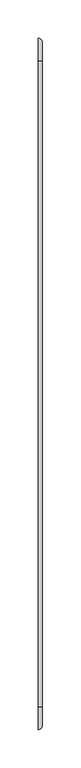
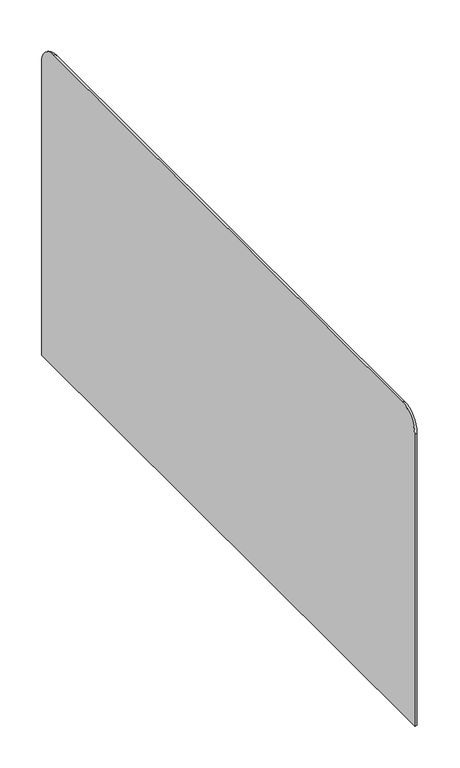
"""IFC4 building model written with IfcOpenShell, lengths in millimetres: furniture geometry, Armchair_Bensen_Neo_NEO100IT : Armchair_Bensen_Neo_NEO100IT."""

from ifc_helpers import new_model, si_unit, point, frame, origin, place, context, project, spatial, circle_curve, ellipse_curve, trimmed, source, transform, mapped, element, save
from ifc_brep_helpers import plane_surface, cylinder_surface, revolved_surface, advanced_brep


def furniture_14755b09(model_context):
    return source(origin(), model_context, "Body", "AdvancedBrep", [
        advanced_brep(
        [(480.0, -449.9987249, 170.0), (480.0, -449.9987249, 599.5427565), (480.0, -419.9987249, 629.5427565), (480.0, 419.998725, 629.5427565), (480.0, 449.998725, 599.5427565), (480.0, 449.998725, 170.0), (485.0, -444.9987249, 170.0), (485.0, 444.998725, 170.0), (485.0, 444.998725, 599.5427565), (485.0, 419.998725, 624.5427565), (485.0, -419.9987249, 624.5427565), (485.0, -444.9987249, 599.5427565)],
        [
            (0, 1),
            (1, 2, circle_curve(frame((480.0, -419.9987249, 599.5427565), z_axis=(-1.0, 0.0, 0.0), x_axis=(0.0, 0.0, 1.0)), 30.0)),
            (2, 3),
            (3, 4, circle_curve(frame((480.0, 419.998725, 599.5427565), z_axis=(-1.0, 0.0, 0.0), x_axis=(0.0, 1.0, 0.0)), 30.0)),
            (4, 5),
            (5, 0),
            (6, 7),
            (7, 8),
            (8, 9, circle_curve(frame((485.0, 419.998725, 599.5427565), z_axis=(1.0, 0.0, 0.0), x_axis=(0.0, 1.0, 0.0)), 25.0)),
            (9, 10),
            (10, 11, circle_curve(frame((485.0, -419.9987249, 599.5427565), z_axis=(1.0, 0.0, 0.0), x_axis=(0.0, 0.0, 1.0)), 25.0)),
            (11, 6),
            (5, 7, circle_curve(frame((480.0, 444.998725, 170.0), z_axis=(0.0, 0.0, -1.0), x_axis=(-1.0, 0.0, 0.0)), 5.0)),
            (6, 0, circle_curve(frame((480.0, -444.9987249, 170.0), z_axis=(0.0, 0.0, -1.0), x_axis=(-1.0, 0.0, 0.0)), 5.0)),
            (9, 3, circle_curve(frame((480.0, 419.998725, 624.5427565), z_axis=(0.0, -1.0, 0.0), x_axis=(-1.0, 0.0, 0.0)), 5.0)),
            (2, 10, circle_curve(frame((480.0, -419.9987249, 624.5427565), z_axis=(0.0, 1.0, 0.0), x_axis=(-1.0, 0.0, 0.0)), 5.0)),
            (1, 11, circle_curve(frame((480.0, -444.9987249, 599.5427565), z_axis=(0.0, 0.0, 1.0), x_axis=(-1.0, 0.0, 0.0)), 5.0)),
            (4, 8, circle_curve(frame((480.0, 444.998725, 599.5427565), z_axis=(0.0, 0.0, -1.0), x_axis=(-1.0, 0.0, 0.0)), 5.0)),
        ],
        [
            plane_surface(frame((480.0, 444.998725, 599.5427565), z_axis=(-1.0, 0.0, 0.0), x_axis=(0.0, 0.0, -1.0))),
            plane_surface(frame((485.0, 444.998725, 599.5427565), z_axis=(1.0, 0.0, 0.0), x_axis=(0.0, 0.0, 1.0))),
            plane_surface(frame((480.0, 444.998725, 170.0), z_axis=(0.0, 0.0, -1.0), x_axis=(1.0, 0.0, 0.0))),
            cylinder_surface(frame((480.0, 419.998725, 624.5427565), z_axis=(0.0, 1.0, 0.0), x_axis=(-1.0, 0.0, 0.0)), 5.0),
            revolved_surface(trimmed(ellipse_curve(frame((480.0, -419.9987249, 624.5427565), z_axis=(0.0, 1.0, 0.0), x_axis=(-1.0, 0.0, 0.0)), 5.0, 5.0), [point((480.0, -419.9987249, 629.5427565))], [point((485.0, -419.9987249, 624.5427565))], True, "CARTESIAN"), (0.0, -419.9987249, 599.5427565), (1.0, 0.0, 0.0)),
            cylinder_surface(frame((480.0, -444.9987249, 599.5427565), z_axis=(0.0, 0.0, 1.0), x_axis=(-1.0, 0.0, 0.0)), 5.0),
            cylinder_surface(frame((480.0, 444.998725, 170.0), z_axis=(0.0, 0.0, -1.0), x_axis=(-1.0, 0.0, 0.0)), 5.0),
            revolved_surface(trimmed(ellipse_curve(frame((480.0, 444.998725, 599.5427565), z_axis=(0.0, 0.0, -1.0), x_axis=(-1.0, 0.0, 0.0)), 5.0, 5.0), [point((480.0, 449.998725, 599.5427565))], [point((485.0, 444.998725, 599.5427565))], True, "CARTESIAN"), (0.0, 419.998725, 599.5427565), (1.0, 0.0, 0.0)),
        ],
        [
            (0, [[1, 2, 3, 4, 5, 6]]),
            (1, [[7, 8, 9, 10, 11, 12]]),
            (2, [[-6, 13, -7, 14]]),
            (3, [[15, -3, 16, -10]]),
            (4, [[-16, -2, 17, -11]]),
            (5, [[-17, -1, -14, -12]]),
            (6, [[-13, -5, 18, -8]]),
            (7, [[-15, -9, -18, -4]]),
        ],
    ),
    ])


if __name__ == "__main__":
    model = new_model("IFC4")
    model_context = context("Model", 3, world=origin())
    ifc_project = project(units=[si_unit("LENGTHUNIT", "METRE", prefix="MILLI")], contexts=[model_context])
    site = spatial("IfcSite", under=ifc_project)
    building = spatial("IfcBuilding", under=site)
    placement = place(None, origin())
    furniture_shape = furniture_14755b09(model_context)
    element("IfcFurniture", 1, ObjectType="Armchair_Bensen_Neo_NEO100IT : Armchair_Bensen_Neo_NEO100IT", at=placement, inside=building, context=model_context, shape_type="MappedRepresentation", body=[
        mapped(furniture_shape, transform((0.0, 0.0, 0.0), x_axis=(1.0, 0.0, 0.0), y_axis=(0.0, 1.0, 0.0), z_axis=(0.0, 0.0, 1.0))),
    ])
    save(model, "model.ifc")
